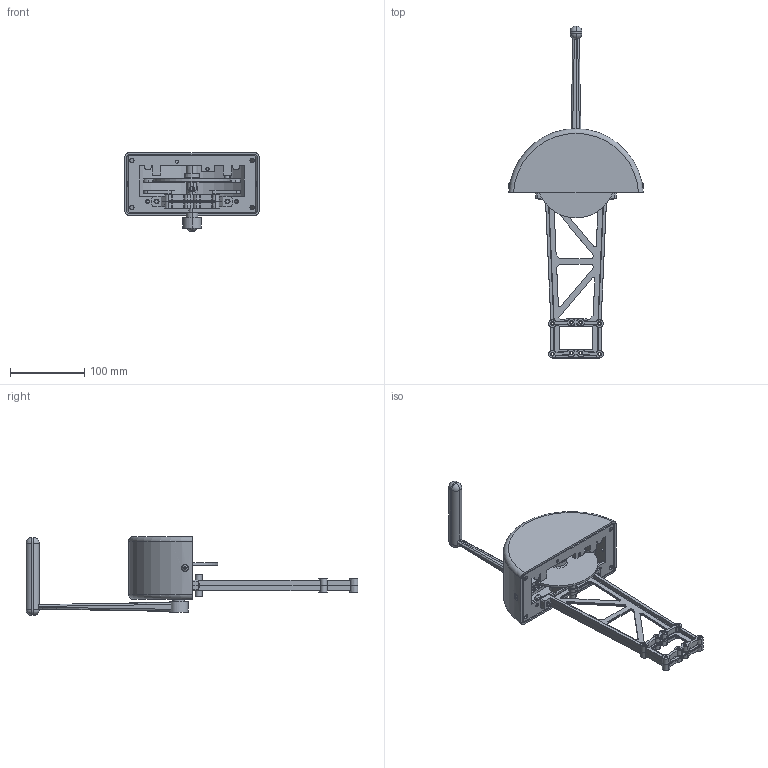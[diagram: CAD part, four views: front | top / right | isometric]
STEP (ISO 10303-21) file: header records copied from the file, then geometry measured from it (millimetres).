
FILE_DESCRIPTION (( 'STEP AP214' ), '1' );
FILE_NAME ('2006-KO.STEP', '2019-06-27T20:06:19', ( '' ), ( '' ), 'SwSTEP 2.0', 'SolidWorks 2019', '' );
FILE_SCHEMA (( 'AUTOMOTIVE_DESIGN' ));
Length unit declared in the file: inch
Products named in the file (1): 2006-KO
Bounding box: 183.11 x 447.55 x 106.3 mm (x, y, z)
Surface area: 190394.2 mm2 (no closed solid volume)
Topology: 0 solids, 28 shells, 710 faces, 2413 edges, 1652 vertices
Faces by surface type: plane 224, cone 153, cylinder 136, torus 98, bspline 85, sphere 14
Entity records: 39861 total; most frequent: CARTESIAN_POINT 11033, DIRECTION 3944, ORIENTED_EDGE 3876, EDGE_CURVE 2413, VERTEX_POINT 1652, AXIS2_PLACEMENT_3D 1533, CIRCLE 907, VECTOR 878
